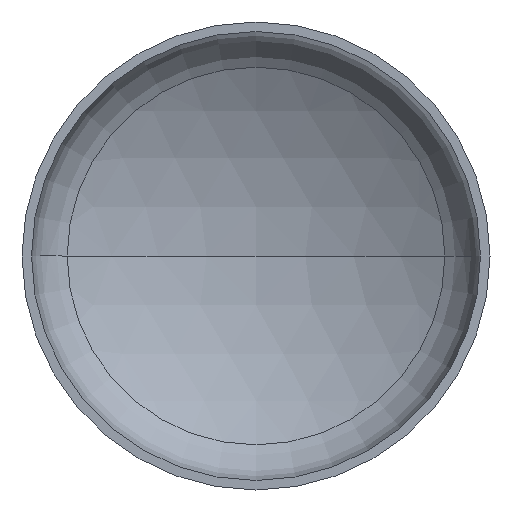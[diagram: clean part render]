
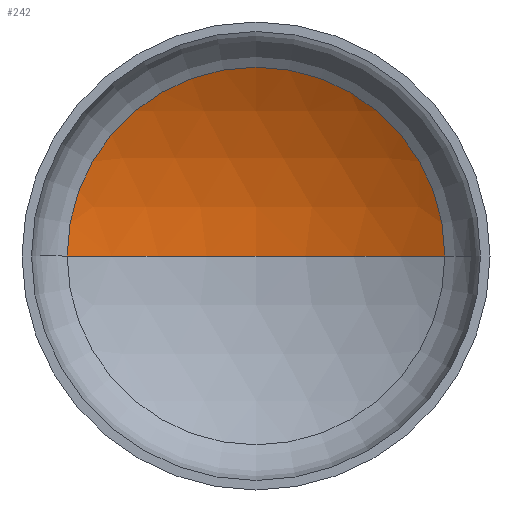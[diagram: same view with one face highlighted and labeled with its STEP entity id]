
A CAD part, front view. The second image highlights one B-rep face of the part: STEP entity #242.
In plain terms, the highlighted spherical face has radius 4400 mm.
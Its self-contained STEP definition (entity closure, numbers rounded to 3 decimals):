
#9 = CARTESIAN_POINT ( 'NONE',  ( 0., -2994.719, 0. ) ) ;
#11 = CARTESIAN_POINT ( 'NONE',  ( 0., -2994.719, 0. ) ) ;
#15 = VERTEX_POINT ( 'NONE', #284 ) ;
#34 = SPHERICAL_SURFACE ( 'NONE', #42, 4400. ) ;
#37 = VERTEX_POINT ( 'NONE', #282 ) ;
#42 = AXIS2_PLACEMENT_3D ( 'NONE', #48, #260, #177 ) ;
#47 = ORIENTED_EDGE ( 'NONE', *, *, #186, .F. ) ;
#48 = CARTESIAN_POINT ( 'NONE',  ( 0., -2994.719, 0. ) ) ;
#59 = VERTEX_POINT ( 'NONE', #264 ) ;
#73 = CIRCLE ( 'NONE', #81, 4400. ) ;
#81 = AXIS2_PLACEMENT_3D ( 'NONE', #11, #352, #374 ) ;
#94 = CIRCLE ( 'NONE', #103, 2219.184 ) ;
#99 = AXIS2_PLACEMENT_3D ( 'NONE', #9, #405, #365 ) ;
#103 = AXIS2_PLACEMENT_3D ( 'NONE', #215, #212, #213 ) ;
#117 = EDGE_LOOP ( 'NONE', ( #47, #347, #150 ) ) ;
#150 = ORIENTED_EDGE ( 'NONE', *, *, #178, .T. ) ;
#177 = DIRECTION ( 'NONE',  ( -1., 0., 0. ) ) ;
#178 = EDGE_CURVE ( 'NONE', #15, #59, #94, .T. ) ;
#182 = EDGE_CURVE ( 'NONE', #37, #15, #206, .T. ) ;
#186 = EDGE_CURVE ( 'NONE', #37, #59, #73, .T. ) ;
#190 = FACE_OUTER_BOUND ( 'NONE', #117, .T. ) ;
#206 = CIRCLE ( 'NONE', #99, 4400. ) ;
#212 = DIRECTION ( 'NONE',  ( 0., -1., 0. ) ) ;
#213 = DIRECTION ( 'NONE',  ( 1., 0., 0. ) ) ;
#215 = CARTESIAN_POINT ( 'NONE',  ( 0., 804.652, 0. ) ) ;
#242 = ADVANCED_FACE ( 'NONE', ( #190 ), #34, .F. ) ;
#260 = DIRECTION ( 'NONE',  ( 0., 0., -1. ) ) ;
#264 = CARTESIAN_POINT ( 'NONE',  ( -2219.184, 804.652, 0. ) ) ;
#282 = CARTESIAN_POINT ( 'NONE',  ( 0., 1405.281, 0. ) ) ;
#284 = CARTESIAN_POINT ( 'NONE',  ( 2219.184, 804.652, 0. ) ) ;
#347 = ORIENTED_EDGE ( 'NONE', *, *, #182, .T. ) ;
#352 = DIRECTION ( 'NONE',  ( 0., 0., 1. ) ) ;
#365 = DIRECTION ( 'NONE',  ( -1., 0., 0. ) ) ;
#374 = DIRECTION ( 'NONE',  ( 1., 0., 0. ) ) ;
#405 = DIRECTION ( 'NONE',  ( 0., 0., -1. ) ) ;
